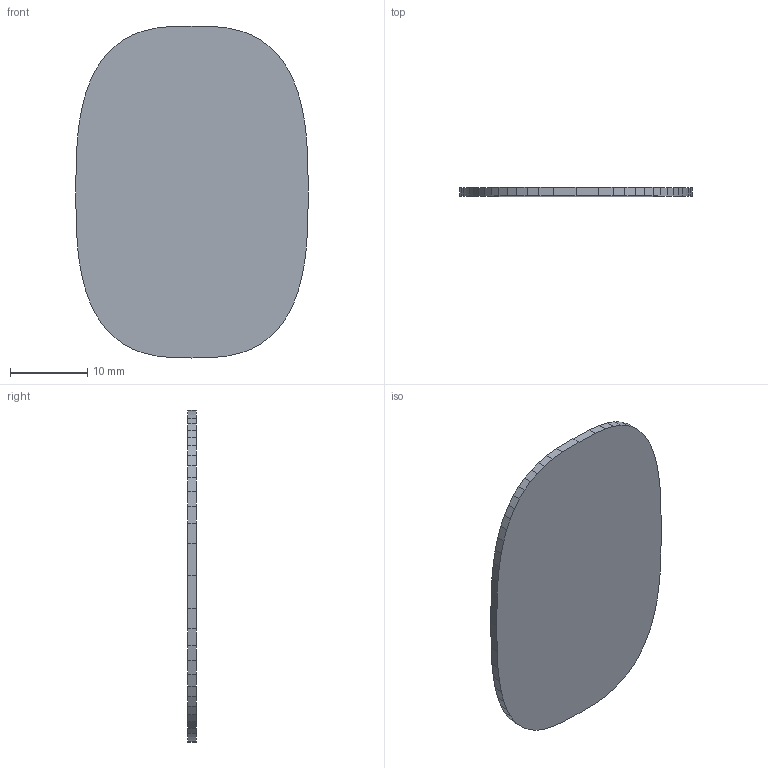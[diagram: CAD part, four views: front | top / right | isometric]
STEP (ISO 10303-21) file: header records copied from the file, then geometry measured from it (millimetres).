
FILE_DESCRIPTION(('FreeCAD Model'),'2;1');
FILE_NAME('Open CASCADE Shape Model','2026-11-20T08:25:39',('FreeCAD'),( 'FreeCAD'),'Open CASCADE STEP processor 7.8','FreeCAD','Unknown');
FILE_SCHEMA(('AUTOMOTIVE_DESIGN { 1 0 10303 214 1 1 1 1 }'));
Length unit declared in the file: millimetre
Products named in the file (1): Open CASCADE STEP translator 7.8 92
Bounding box: 30.1 x 1.1 x 43 mm (x, y, z)
Volume: 1242.5 mm3; surface area: 2394.2 mm2
Topology: 1 solids, 1 shells, 66 faces, 192 edges, 128 vertices
Faces by surface type: plane 66
Entity records: 2146 total; most frequent: CARTESIAN_POINT 387, ORIENTED_EDGE 384, DIRECTION 326, EDGE_CURVE 192, LINE 192, VECTOR 192, VERTEX_POINT 128, AXIS2_PLACEMENT_3D 67
